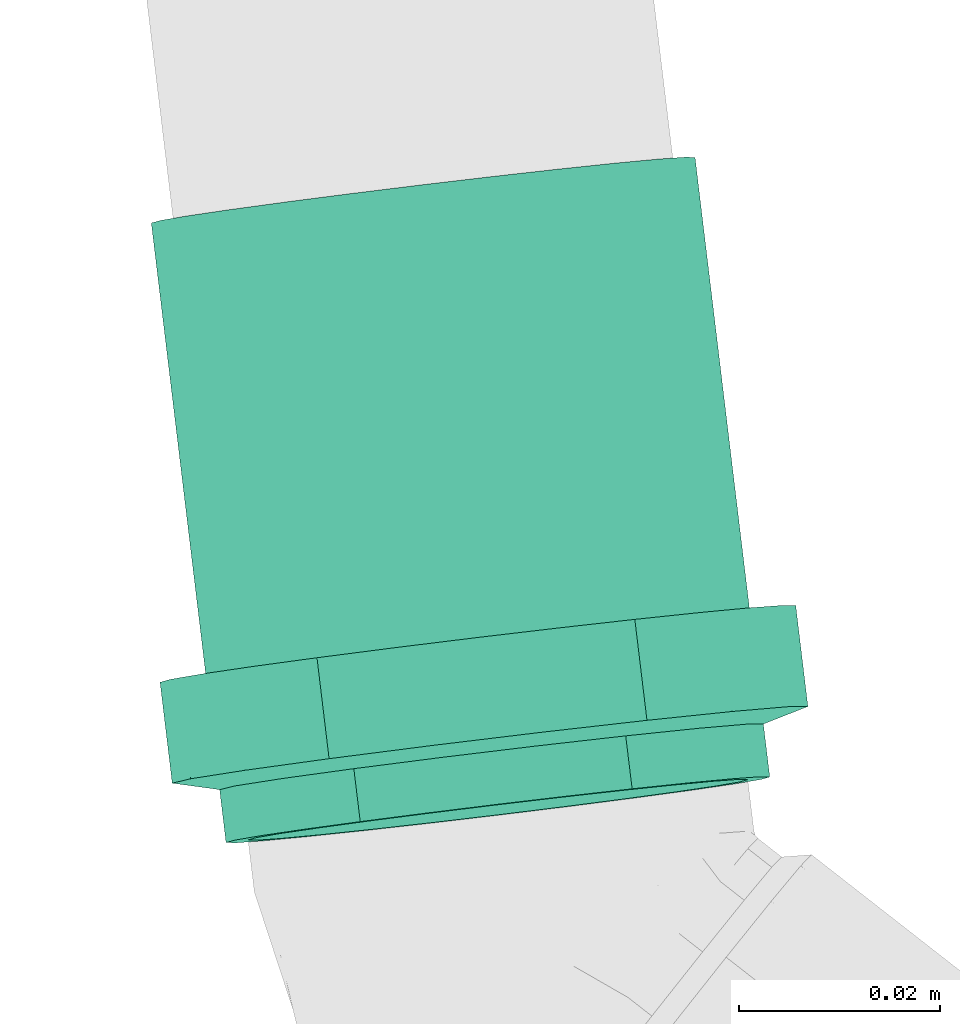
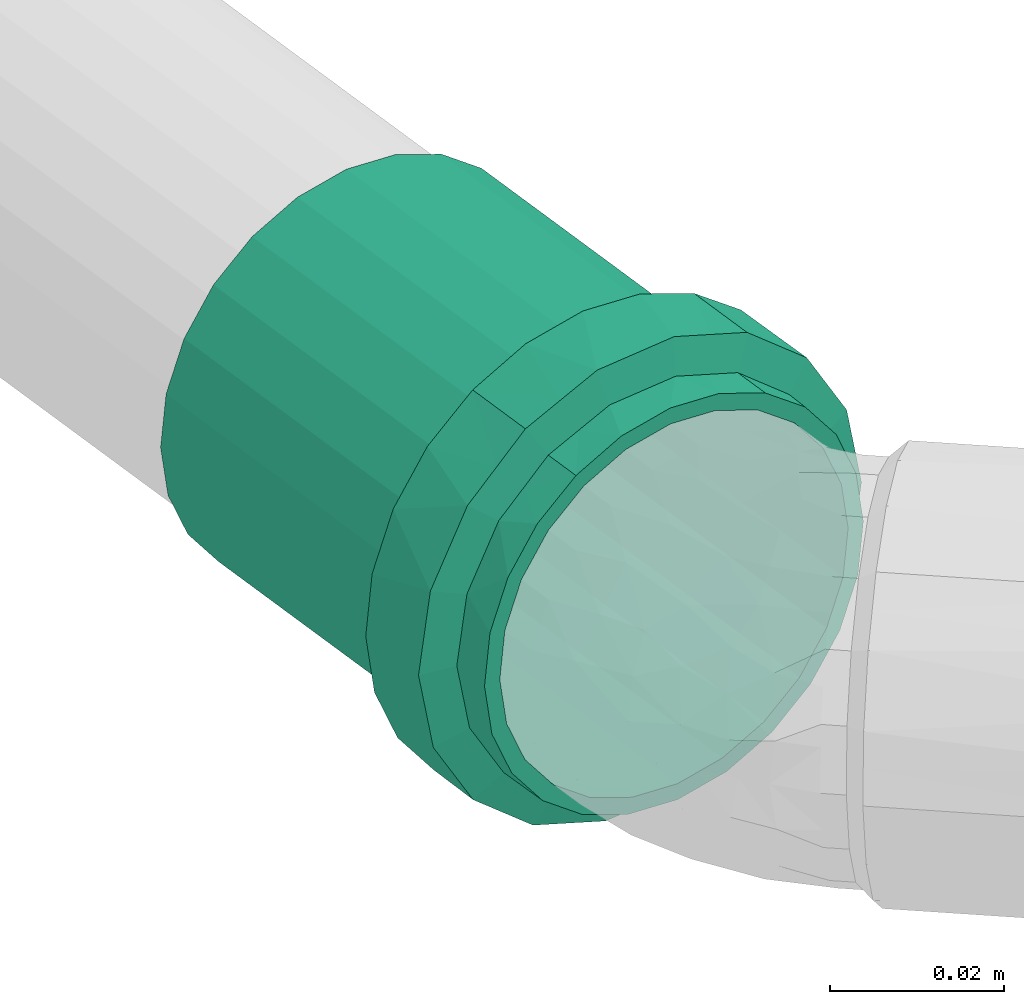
# One storey, part 12 of 97: 1 flow fitting.
"""IFC2X3 building model written with IfcOpenShell, lengths in centimetres."""

from ifc_helpers import new_model, entity, si_unit, converted_unit, derived_unit, direction, frame, origin, place, context, subcontext, project, spatial, faceted_brep, source, transform, mapped, material, type_object, type_shapes, element, save


model = new_model("IFC2X3")

# Units and contexts
model_context = context("Model", 3, precision=0.001, world=origin(), true_north=direction((6.12303176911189e-17, 1.0)))
body_context = subcontext(model_context, "Body", "Model", "MODEL_VIEW")
ifc_project = project(units=[si_unit("LENGTHUNIT", "METRE", prefix="CENTI"), si_unit("AREAUNIT", "SQUARE_METRE"), si_unit("VOLUMEUNIT", "CUBIC_METRE"), converted_unit("PLANEANGLEUNIT", "DEGREE", entity("IfcRatioMeasure", 0.0174532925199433), si_unit("PLANEANGLEUNIT", "RADIAN"), dimensions=[0, 0, 0, 0, 0, 0, 0]), si_unit("MASSUNIT", "GRAM", prefix="KILO"), derived_unit("MASSDENSITYUNIT", [(si_unit("MASSUNIT", "GRAM", prefix="KILO"), 1), (si_unit("LENGTHUNIT", "METRE"), -3)]), derived_unit("MOMENTOFINERTIAUNIT", [(si_unit("LENGTHUNIT", "METRE"), 4)]), si_unit("TIMEUNIT", "SECOND"), si_unit("FREQUENCYUNIT", "HERTZ"), si_unit("THERMODYNAMICTEMPERATUREUNIT", "DEGREE_CELSIUS"), derived_unit("THERMALTRANSMITTANCEUNIT", [(si_unit("MASSUNIT", "GRAM", prefix="KILO"), 1), (si_unit("THERMODYNAMICTEMPERATUREUNIT", "KELVIN"), -1), (si_unit("TIMEUNIT", "SECOND"), -3)]), derived_unit("VOLUMETRICFLOWRATEUNIT", [(si_unit("LENGTHUNIT", "METRE"), 3), (si_unit("TIMEUNIT", "SECOND"), -1)]), si_unit("ELECTRICCURRENTUNIT", "AMPERE"), si_unit("ELECTRICVOLTAGEUNIT", "VOLT"), si_unit("POWERUNIT", "WATT"), si_unit("FORCEUNIT", "NEWTON", prefix="KILO"), si_unit("ILLUMINANCEUNIT", "LUX"), si_unit("LUMINOUSFLUXUNIT", "LUMEN"), si_unit("LUMINOUSINTENSITYUNIT", "CANDELA"), derived_unit("USERDEFINED", [(si_unit("MASSUNIT", "GRAM", prefix="KILO"), -1), (si_unit("LENGTHUNIT", "METRE"), -2), (si_unit("TIMEUNIT", "SECOND"), 3), (si_unit("LUMINOUSFLUXUNIT", "LUMEN"), 1)]), derived_unit("LINEARVELOCITYUNIT", [(si_unit("LENGTHUNIT", "METRE"), 1), (si_unit("TIMEUNIT", "SECOND"), -1)]), si_unit("PRESSUREUNIT", "PASCAL"), derived_unit("USERDEFINED", [(si_unit("LENGTHUNIT", "METRE"), -2), (si_unit("MASSUNIT", "GRAM", prefix="KILO"), 1), (si_unit("TIMEUNIT", "SECOND"), -2)]), derived_unit("LINEARFORCEUNIT", [(si_unit("MASSUNIT", "GRAM", prefix="KILO"), 1), (si_unit("LENGTHUNIT", "METRE"), 1), (si_unit("TIMEUNIT", "SECOND"), -2), (si_unit("LENGTHUNIT", "METRE"), -1)]), derived_unit("PLANARFORCEUNIT", [(si_unit("MASSUNIT", "GRAM", prefix="KILO"), 1), (si_unit("LENGTHUNIT", "METRE"), 1), (si_unit("TIMEUNIT", "SECOND"), -2), (si_unit("LENGTHUNIT", "METRE"), -2)])], contexts=[model_context])

# Site, building, storey
site_placement = place(None, origin())
site = spatial("IfcSite", under=ifc_project, at=site_placement, Name="Default", CompositionType="ELEMENT")
building_placement = place(site_placement, origin())
building = spatial("IfcBuilding", under=site, at=building_placement, Name="HIDROSSANITÁRIO", CompositionType="ELEMENT")
storey_placement = place(building_placement, frame((0.0, 0.0, -260.0)))
storey = spatial("IfcBuildingStorey", under=building, at=storey_placement, Name="TÉRREO-HID", CompositionType="ELEMENT", Elevation=-260.0)

# Flow fitting
ifc_material = material(Name="PVC Branco")
pipe_fitting_type = type_object("IfcPipeFittingType", Name="Luva Simples para Conexão - Serie Normal - Esgoto - MEP - Tigre:Standard", PredefinedType="NOTDEFINED", material=ifc_material)
shared_shape = source(origin(), body_context, "Body", "Brep", [
    faceted_brep([(1.65999999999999, 1.59, -2.75396078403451), (1.65999999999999, 2.24859956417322, -2.24859956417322), (1.65999999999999, 1.35999999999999, -2.35558909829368), (1.65999999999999, 0.703987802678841, -2.62731824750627), (1.65999999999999, 0.82304456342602, -3.07164412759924), (1.65999999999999, 1.9233304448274, -1.92333044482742), (1.65999999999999, 2.75396078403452, -1.59), (1.65999999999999, 2.35558909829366, -1.36000000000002), (1.65999999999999, 2.62731824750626, -0.703987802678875), (1.65999999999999, 3.07164412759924, -0.823044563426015), (1.65999999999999, 2.72, 0.0), (1.65999999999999, 3.18, 0.0), (1.65999999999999, 2.62731824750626, 0.703987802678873), (1.65999999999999, 3.07164412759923, 0.823044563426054), (1.65999999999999, 2.35558909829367, 1.36000000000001), (1.65999999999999, 2.7539607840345, 1.59000000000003), (1.65999999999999, 1.9233304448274, 1.92333044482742), (1.65999999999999, 2.24859956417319, 2.24859956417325), (1.65999999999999, 1.35999999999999, 2.35558909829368), (1.65999999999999, 1.58999999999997, 2.75396078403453), (1.65999999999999, 0.703987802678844, 2.62731824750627), (1.65999999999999, 0.823044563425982, 3.07164412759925), (1.65999999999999, 0.0, 2.72), (1.65999999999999, 0.0, 3.18), (1.65999999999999, -0.703987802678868, 2.62731824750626), (1.65999999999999, -0.823044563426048, 3.07164412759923), (1.65999999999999, -1.36000000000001, 2.35558909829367), (1.65999999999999, -1.59000000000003, 2.7539607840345), (1.65999999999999, -1.92333044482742, 1.9233304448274), (1.65999999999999, -2.24859956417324, 2.2485995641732), (1.65999999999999, -2.35558909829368, 1.35999999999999), (1.65999999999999, -2.75396078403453, 1.58999999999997), (1.65999999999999, -3.07164412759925, 0.823044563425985), (1.65999999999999, -2.62731824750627, 0.703987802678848), (1.65999999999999, -3.18, 0.0), (1.65999999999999, -2.72, 0.0), (1.65999999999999, -3.07164412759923, -0.823044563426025), (1.65999999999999, -2.62731824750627, -0.703987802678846), (1.65999999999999, -2.75396078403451, -1.59000000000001), (1.65999999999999, -2.35558909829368, -1.35999999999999), (1.65999999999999, -2.24859956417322, -2.24859956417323), (1.65999999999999, -1.92333044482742, -1.9233304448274), (1.65999999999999, -1.58999999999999, -2.75396078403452), (1.65999999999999, -1.36000000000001, -2.35558909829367), (1.65999999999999, -0.823044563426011, -3.07164412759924), (1.65999999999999, -0.70398780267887, -2.62731824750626), (1.65999999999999, 0.0, -3.18), (1.65999999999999, 0.0, -2.72), (0.650000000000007, -1.07081089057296, 2.94292196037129), (0.650000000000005, -2.43590738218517, 2.04420038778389), (0.650000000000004, -2.7120498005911, 1.56595386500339), (0.650000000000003, -2.98819221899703, 1.08770734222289), (0.650000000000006, -1.58976972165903, 2.75409372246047), (0.650000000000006, -2.0128385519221, 2.39914705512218), (0.650000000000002, -3.08409610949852, 0.54385367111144), (0.650000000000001, -3.18, 0.0), (0.650000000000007, -0.551852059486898, 3.13175019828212), (0.650000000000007, 0.552637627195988, 3.13161167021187), (0.650000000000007, 0.000392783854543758, 3.13168093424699), (0.650000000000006, 2.01344030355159, 2.39864206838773), (0.650000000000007, 1.07154907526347, 2.94265325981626), (0.650000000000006, 1.59046052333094, 2.75369484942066), (0.650000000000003, 2.98846497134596, 1.08695773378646), (0.650000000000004, 2.7124425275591, 1.56527351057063), (0.650000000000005, 2.43642008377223, 2.0435892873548), (0.650000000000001, 3.18, 0.0), (0.649999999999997, 2.43642008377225, -2.04358928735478), (0.649999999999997, 2.71244252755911, -1.5652735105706), (0.649999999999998, 2.98846497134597, -1.08695773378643), (0.649999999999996, 1.59046052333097, -2.75369484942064), (0.649999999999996, 2.01344030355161, -2.39864206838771), (0.649999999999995, 1.07154907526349, -2.94265325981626), (0.649999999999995, 0.552637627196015, -3.13161167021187), (0.649999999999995, -0.551852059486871, -3.13175019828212), (0.649999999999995, 0.000392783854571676, -3.13168093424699), (0.649999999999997, -2.01283855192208, -2.3991470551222), (0.649999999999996, -1.58976972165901, -2.75409372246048), (0.649999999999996, -1.07081089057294, -2.9429219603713), (0.649999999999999, -2.98819221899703, -1.08770734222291), (0.649999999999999, -2.71204980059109, -1.56595386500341), (0.649999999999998, -2.43590738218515, -2.04420038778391), (0.65, -3.08409610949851, -0.543853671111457), (0.64999999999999, -3.06961738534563, -0.625959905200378), (6.20000000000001, 1.36, -2.35558909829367), (6.20000000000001, 1.92333044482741, -1.92333044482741), (6.20000000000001, 1.24999999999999, -2.1650635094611), (6.20000000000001, 0.647047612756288, -2.41481456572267), (6.20000000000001, 0.70398780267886, -2.62731824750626), (6.20000000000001, 1.76776695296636, -1.76776695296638), (6.20000000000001, 2.35558909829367, -1.36), (6.20000000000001, 2.16506350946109, -1.25000000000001), (6.20000000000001, 2.41481456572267, -0.647047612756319), (6.20000000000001, 2.62731824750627, -0.703987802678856), (6.20000000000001, 2.5, 0.0), (6.20000000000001, 2.72, 0.0), (6.20000000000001, 2.41481456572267, 0.647047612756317), (6.20000000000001, 2.62731824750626, 0.703987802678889), (6.20000000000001, 2.16506350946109, 1.25000000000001), (6.20000000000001, 2.35558909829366, 1.36000000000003), (6.20000000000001, 1.76776695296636, 1.76776695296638), (6.20000000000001, 1.92333044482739, 1.92333044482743), (6.20000000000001, 1.24999999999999, 2.1650635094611), (6.20000000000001, 1.35999999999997, 2.35558909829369), (6.20000000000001, 0.64704761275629, 2.41481456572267), (6.20000000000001, 0.703987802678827, 2.62731824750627), (6.20000000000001, 0.0, 2.5), (6.20000000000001, 0.0, 2.72), (6.20000000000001, -0.647047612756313, 2.41481456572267), (6.20000000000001, -0.703987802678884, 2.62731824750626), (6.20000000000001, -1.25000000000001, 2.16506350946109), (6.20000000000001, -1.36000000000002, 2.35558909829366), (6.20000000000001, -1.76776695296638, 1.76776695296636), (6.20000000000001, -1.92333044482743, 1.92333044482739), (6.20000000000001, -2.1650635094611, 1.24999999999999), (6.20000000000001, -2.35558909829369, 1.35999999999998), (6.20000000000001, -2.62731824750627, 0.703987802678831), (6.20000000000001, -2.41481456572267, 0.647047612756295), (6.20000000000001, -2.72, 0.0), (6.20000000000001, -2.5, 0.0), (6.20000000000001, -2.62731824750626, -0.703987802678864), (6.20000000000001, -2.41481456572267, -0.647047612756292), (6.20000000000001, -2.35558909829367, -1.36000000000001), (6.20000000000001, -2.1650635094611, -1.24999999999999), (6.20000000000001, -1.9233304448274, -1.92333044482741), (6.20000000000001, -1.76776695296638, -1.76776695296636), (6.20000000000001, -1.36, -2.35558909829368), (6.20000000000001, -1.25000000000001, -2.16506350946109), (6.20000000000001, -0.703987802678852, -2.62731824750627), (6.20000000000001, -0.647047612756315, -2.41481456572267), (6.20000000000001, 0.0, -2.72), (6.20000000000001, 0.0, -2.5), (0.0, 1.24999999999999, -2.1650635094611), (0.0, 1.92333044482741, -1.92333044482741), (0.0, 1.36, -2.35558909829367), (0.0, 0.647047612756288, -2.41481456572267), (0.0, 1.76776695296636, -1.76776695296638), (0.0, 2.35558909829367, -1.36), (0.0, 2.16506350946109, -1.25000000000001), (0.0, 2.41481456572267, -0.647047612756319), (0.0, 2.62731824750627, -0.703987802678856), (0.0, 2.5, 0.0), (0.0, 2.72, 0.0), (0.0, 2.41481456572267, 0.647047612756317), (0.0, 2.62731824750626, 0.703987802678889), (0.0, 2.16506350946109, 1.25000000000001), (0.0, 2.35558909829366, 1.36000000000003), (0.0, 1.76776695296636, 1.76776695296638), (0.0, 1.92333044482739, 1.92333044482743), (0.0, 1.24999999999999, 2.1650635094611), (0.0, 1.35999999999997, 2.35558909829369), (0.0, 0.64704761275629, 2.41481456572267), (0.0, 0.703987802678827, 2.62731824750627), (0.0, 0.0, 2.5), (0.0, 0.0, 2.72), (0.0, -0.647047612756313, 2.41481456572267), (0.0, -0.703987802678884, 2.62731824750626), (0.0, -1.25000000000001, 2.16506350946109), (0.0, -1.36000000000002, 2.35558909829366), (0.0, -1.76776695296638, 1.76776695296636), (0.0, -1.92333044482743, 1.92333044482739), (0.0, -2.1650635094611, 1.24999999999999), (0.0, -2.35558909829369, 1.35999999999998), (0.0, -2.62731824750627, 0.703987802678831), (0.0, -2.41481456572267, 0.647047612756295), (0.0, -2.72, 0.0), (0.0, -2.5, 0.0), (0.0, -2.62731824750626, -0.703987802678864), (0.0, -2.41481456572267, -0.647047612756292), (0.0, -2.35558909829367, -1.36000000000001), (0.0, -2.1650635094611, -1.24999999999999), (0.0, -1.9233304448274, -1.92333044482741), (0.0, -1.76776695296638, -1.76776695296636), (0.0, -1.36, -2.35558909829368), (0.0, -1.25000000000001, -2.16506350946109), (0.0, -0.703987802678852, -2.62731824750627), (0.0, -0.647047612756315, -2.41481456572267), (0.0, 0.0, -2.72), (0.0, 0.0, -2.5), (0.0, 0.70398780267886, -2.62731824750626), (0.53, -2.63796899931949, 0.465183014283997), (0.529999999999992, -2.62558467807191, 0.535412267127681), (0.530000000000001, -2.55593799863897, 0.930366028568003), (0.530000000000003, -2.08354342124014, 1.74849844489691), (0.530000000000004, -1.72167322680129, 2.05210062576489), (0.530000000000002, -2.31974070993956, 1.33943223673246), (0.530000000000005, -0.472024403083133, 2.67872972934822), (0.530000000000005, -0.915913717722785, 2.51721626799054), (0.53, -2.72, 0.0), (0.530000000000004, -1.35980303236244, 2.35570280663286), (0.530000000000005, 0.916545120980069, 2.51698643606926), (0.530000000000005, 1.36039390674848, 2.35536163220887), (0.530000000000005, 0.47269633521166, 2.67861123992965), (0.530000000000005, 1.72218793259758, 2.05166868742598), (0.530000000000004, 2.08398195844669, 1.7479757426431), (0.530000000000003, 2.5561712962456, 0.929724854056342), (0.53, 2.72, 0.0), (0.530000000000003, 2.32007662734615, 1.33885029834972), (0.530000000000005, 0.000335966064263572, 2.67867048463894), (0.529999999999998, 2.55617129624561, -0.929724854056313), (0.529999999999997, 2.08398195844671, -1.74797574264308), (0.529999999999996, 1.7221879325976, -2.05166868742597), (0.529999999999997, 2.32007662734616, -1.3388502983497), (0.529999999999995, 0.472696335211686, -2.67861123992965), (0.529999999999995, 0.916545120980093, -2.51698643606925), (0.529999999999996, 1.3603939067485, -2.35536163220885), (0.529999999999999, -2.63796899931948, -0.465183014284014), (0.529999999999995, -0.915913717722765, -2.51721626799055), (0.529999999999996, -1.35980303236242, -2.35570280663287), (0.529999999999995, -0.47202440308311, -2.67872972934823), (0.529999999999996, -1.72167322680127, -2.0521006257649), (0.529999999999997, -2.08354342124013, -1.74849844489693), (0.529999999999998, -2.55593799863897, -0.930366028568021), (0.529999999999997, -2.31974070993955, -1.33943223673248), (0.529999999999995, 0.000335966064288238, -2.67867048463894), (3.9, -2.5, 0.0), (3.9, 2.5, 0.0)], [[[0, 1, 2]], [[0, 2, 3]], [[3, 4, 0]], [[2, 1, 5]], [[6, 5, 1]], [[7, 5, 6]], [[8, 7, 6]], [[8, 6, 9]], [[8, 9, 10]], [[10, 9, 11]], [[12, 10, 11]], [[12, 11, 13]], [[14, 12, 13]], [[14, 13, 15]], [[16, 14, 15]], [[15, 17, 16]], [[17, 18, 16]], [[17, 19, 18]], [[18, 19, 20]], [[21, 20, 19]], [[20, 21, 22]], [[22, 21, 23]], [[22, 23, 24]], [[24, 23, 25]], [[24, 25, 26]], [[27, 26, 25]], [[27, 28, 26]], [[28, 27, 29]], [[30, 28, 29]], [[31, 30, 29]], [[32, 30, 31]], [[33, 30, 32]], [[33, 32, 34]], [[35, 33, 34]], [[36, 35, 34]], [[36, 37, 35]], [[37, 36, 38]], [[39, 37, 38]], [[39, 38, 40]], [[39, 40, 41]], [[40, 42, 41]], [[41, 42, 43]], [[43, 42, 44]], [[44, 45, 43]], [[46, 45, 44]], [[4, 47, 46]], [[46, 47, 45]], [[4, 3, 47]], [[48, 27, 25]], [[31, 29, 49]], [[31, 49, 50, 51]], [[52, 53, 27]], [[32, 51, 54]], [[54, 55, 34]], [[54, 34, 32]], [[25, 56, 48]], [[49, 29, 53]], [[23, 57, 58, 56]], [[59, 19, 17]], [[27, 53, 29]], [[48, 52, 27]], [[31, 51, 32]], [[57, 23, 21]], [[60, 19, 61]], [[15, 62, 63, 64]], [[19, 60, 21]], [[15, 13, 62]], [[17, 64, 59]], [[57, 21, 60]], [[23, 56, 25]], [[15, 64, 17]], [[13, 65, 62]], [[13, 11, 65]], [[59, 61, 19]], [[65, 11, 9]], [[6, 1, 66]], [[6, 66, 67, 68]], [[69, 70, 0]], [[68, 65, 9]], [[71, 69, 0]], [[71, 0, 4]], [[4, 72, 71]], [[66, 1, 70]], [[46, 73, 74, 72]], [[75, 76, 42]], [[0, 70, 1]], [[75, 42, 40]], [[6, 68, 9]], [[73, 46, 44]], [[77, 42, 76]], [[38, 78, 79, 80]], [[42, 77, 44]], [[38, 36, 78]], [[40, 80, 75]], [[73, 44, 77]], [[46, 72, 4]], [[38, 80, 40]], [[36, 81, 82, 78]], [[55, 81, 34]], [[34, 81, 36]], [[83, 84, 85]], [[83, 85, 86]], [[86, 87, 83]], [[85, 84, 88]], [[89, 88, 84]], [[88, 89, 90]], [[90, 89, 91]], [[92, 91, 89]], [[92, 93, 91]], [[93, 92, 94]], [[95, 93, 94]], [[94, 96, 95]], [[95, 96, 97]], [[98, 97, 96]], [[97, 98, 99]], [[99, 98, 100]], [[101, 99, 100]], [[100, 102, 101]], [[101, 102, 103]], [[104, 103, 102]], [[103, 104, 105]], [[105, 104, 106]], [[105, 106, 107]], [[107, 106, 108]], [[107, 108, 109]], [[110, 109, 108]], [[110, 111, 109]], [[111, 110, 112]], [[112, 113, 111]], [[114, 113, 112]], [[113, 114, 115]], [[115, 116, 113]], [[117, 116, 115]], [[117, 118, 116]], [[119, 118, 117]], [[119, 120, 118]], [[120, 119, 121]], [[121, 122, 120]], [[122, 121, 123]], [[122, 123, 124]], [[123, 125, 124]], [[124, 125, 126]], [[126, 125, 127]], [[127, 128, 126]], [[129, 128, 127]], [[87, 130, 129]], [[129, 130, 128]], [[87, 86, 130]], [[131, 132, 133]], [[134, 131, 133]], [[135, 132, 131]], [[132, 135, 136]], [[137, 136, 135]], [[138, 136, 137]], [[136, 138, 139]], [[138, 140, 139]], [[141, 139, 140]], [[141, 140, 142]], [[142, 143, 141]], [[144, 143, 142]], [[143, 144, 145]], [[146, 145, 144]], [[147, 145, 146]], [[147, 146, 148]], [[148, 149, 147]], [[150, 149, 148]], [[149, 150, 151]], [[152, 151, 150]], [[153, 151, 152]], [[154, 153, 152]], [[155, 153, 154]], [[156, 155, 154]], [[155, 156, 157]], [[156, 158, 157]], [[159, 157, 158]], [[158, 160, 159]], [[159, 160, 161]], [[162, 161, 160]], [[160, 163, 162]], [[162, 163, 164]], [[163, 165, 164]], [[164, 165, 166]], [[165, 167, 166]], [[168, 166, 167]], [[167, 169, 168]], [[170, 168, 169]], [[171, 170, 169]], [[171, 172, 170]], [[173, 172, 171]], [[174, 172, 173]], [[173, 175, 174]], [[174, 175, 176]], [[175, 177, 176]], [[177, 134, 178]], [[176, 177, 178]], [[133, 178, 134]], [[162, 179, 180, 181]], [[159, 182, 183]], [[182, 161, 181, 184]], [[185, 155, 186]], [[161, 162, 181]], [[187, 179, 164]], [[183, 188, 157]], [[183, 157, 159]], [[161, 182, 159]], [[189, 190, 149]], [[189, 149, 151]], [[157, 188, 186]], [[157, 186, 155]], [[153, 155, 185]], [[164, 179, 162]], [[151, 191, 189]], [[147, 192, 193]], [[143, 194, 195]], [[194, 145, 193, 196]], [[143, 195, 141]], [[10, 12, 96, 94]], [[149, 192, 147]], [[153, 185, 197, 191]], [[153, 191, 151]], [[145, 147, 193]], [[190, 192, 149]], [[145, 194, 143]], [[139, 195, 198]], [[132, 199, 200]], [[199, 136, 198, 201]], [[202, 178, 203]], [[136, 139, 198]], [[139, 141, 195]], [[92, 8, 10, 94]], [[133, 203, 178]], [[200, 204, 133]], [[136, 199, 132]], [[205, 164, 166]], [[206, 207, 172]], [[133, 204, 203]], [[206, 172, 174]], [[176, 178, 202]], [[200, 133, 132]], [[174, 208, 206]], [[170, 209, 210]], [[166, 211, 205]], [[211, 168, 210, 212]], [[168, 211, 166]], [[172, 209, 170]], [[176, 202, 213, 208]], [[176, 208, 174]], [[168, 170, 210]], [[207, 209, 172]], [[205, 187, 164]], [[116, 118, 214, 165, 163]], [[156, 109, 111, 158]], [[111, 113, 160, 158]], [[113, 116, 163, 160]], [[107, 109, 156, 154]], [[154, 152, 105, 107]], [[103, 105, 152, 150]], [[103, 150, 148, 101]], [[142, 95, 97, 144]], [[97, 99, 146, 144]], [[99, 101, 148, 146]], [[93, 95, 142, 140, 215]], [[215, 140, 138, 91, 93]], [[135, 131, 85, 88]], [[90, 91, 138, 137]], [[90, 137, 135, 88]], [[86, 85, 131, 134]], [[134, 177, 130, 86]], [[128, 130, 177, 175]], [[128, 175, 173, 126]], [[167, 120, 122, 169]], [[122, 124, 171, 169]], [[124, 126, 173, 171]], [[118, 120, 167, 165, 214]], [[211, 78, 82, 81, 55, 187, 205]], [[79, 78, 211, 212, 210, 80]], [[75, 80, 210, 209, 207, 76]], [[207, 206, 208, 73, 77, 76]], [[213, 202, 72, 74, 73, 208]], [[203, 204, 69, 71, 72, 202]], [[198, 195, 65, 68]], [[199, 201, 198, 68, 67, 66]], [[204, 200, 199, 66, 70, 69]], [[195, 194, 62, 65]], [[197, 185, 56, 58, 57, 191]], [[63, 62, 194, 196, 193, 64]], [[57, 60, 61, 190, 189, 191]], [[193, 192, 190, 61, 59, 64]], [[48, 56, 185, 186, 188, 52]], [[187, 55, 54, 51, 181, 180, 179]], [[182, 184, 181, 51, 50, 49]], [[188, 183, 182, 49, 53, 52]], [[30, 33, 115, 114]], [[117, 115, 33, 35]], [[26, 28, 112, 110]], [[114, 112, 28, 30]], [[24, 26, 110, 108]], [[108, 106, 22, 24]], [[18, 20, 104, 102]], [[100, 16, 18, 102]], [[12, 14, 98, 96]], [[100, 98, 14, 16]], [[104, 20, 22, 106]], [[89, 7, 8, 92]], [[83, 87, 3, 2]], [[7, 89, 84, 5]], [[83, 2, 5, 84]], [[87, 129, 47, 3]], [[43, 45, 127, 125]], [[123, 41, 43, 125]], [[37, 39, 121, 119]], [[123, 121, 39, 41]], [[35, 37, 119, 117]], [[127, 45, 47, 129]]]),
])
type_shapes(pipe_fitting_type, [shared_shape])
flow_fitting_placement = place(storey_placement, frame((-1723.53875321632, 2817.01289842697, -32.2237768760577), z_axis=(-0.00723308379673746, 0.0192685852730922, 0.999788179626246), x_axis=(-0.119684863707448, 0.992610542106, -0.0199961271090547)))
element("IfcFlowFitting", 1, at=flow_fitting_placement, inside=storey, type_object=pipe_fitting_type, material=ifc_material, Name="Luva Simples para Conexão - Serie Normal - Esgoto - MEP - Tigre:Standard", ObjectType="Luva Simples para Conexão - Serie Normal - Esgoto - MEP - Tigre:Standard", context=body_context, shape_type="MappedRepresentation", body=[
    mapped(shared_shape, transform((0.0, 0.0, 0.0), scale=1.0)),
])

save(model, "model.ifc")
